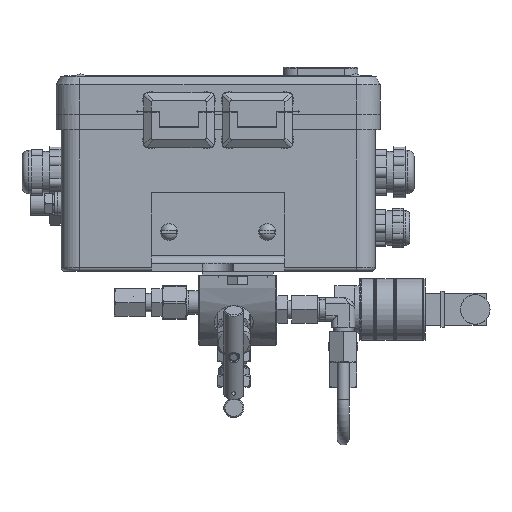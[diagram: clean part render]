
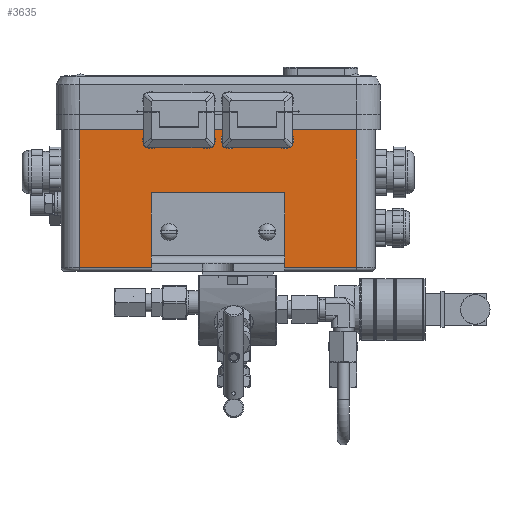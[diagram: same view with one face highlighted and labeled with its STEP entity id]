
A CAD part, front view. The second image highlights one B-rep face of the part: STEP entity #3635.
In plain terms, the highlighted planar face has unit normal (0, -1, 0).
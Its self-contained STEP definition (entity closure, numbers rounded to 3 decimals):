
#3635=ADVANCED_FACE('',(#20647,#20649,#20651,#20653,#20655,#20657,#20659),#20661,
.T.);
#20647=FACE_BOUND('',#20648,.T.);
#20648=EDGE_LOOP('',(#56076,#56077,#56078,#56079));
#20649=FACE_BOUND('',#20650,.T.);
#20650=EDGE_LOOP('',(#56080));
#20651=FACE_BOUND('',#20652,.T.);
#20652=EDGE_LOOP('',(#56081));
#20653=FACE_BOUND('',#20654,.T.);
#20654=EDGE_LOOP('',(#56082));
#20655=FACE_BOUND('',#20656,.T.);
#20656=EDGE_LOOP('',(#56083));
#20657=FACE_BOUND('',#20658,.T.);
#20658=EDGE_LOOP('',(#56084));
#20659=FACE_BOUND('',#20660,.T.);
#20660=EDGE_LOOP('',(#56085));
#20661=PLANE('',#20662);
#20662=AXIS2_PLACEMENT_3D('',#20663,#20664,#20665);
#20663=CARTESIAN_POINT('',(70.5,-80.,0.));
#20664=DIRECTION('',(0.,-1.,0.));
#20665=DIRECTION('',(0.,0.,1.));
#56076=ORIENTED_EDGE('',*,*,#80227,.T.);
#56077=ORIENTED_EDGE('',*,*,#80228,.F.);
#56078=ORIENTED_EDGE('',*,*,#80229,.F.);
#56079=ORIENTED_EDGE('',*,*,#80230,.F.);
#56080=ORIENTED_EDGE('',*,*,#80231,.T.);
#56081=ORIENTED_EDGE('',*,*,#80232,.T.);
#56082=ORIENTED_EDGE('',*,*,#80233,.T.);
#56083=ORIENTED_EDGE('',*,*,#80234,.T.);
#56084=ORIENTED_EDGE('',*,*,#80147,.T.);
#56085=ORIENTED_EDGE('',*,*,#80149,.T.);
#80147=EDGE_CURVE('',#96101,#96101,#96102,.T.);
#80149=EDGE_CURVE('',#96105,#96105,#96106,.T.);
#80227=EDGE_CURVE('',#96237,#96238,#96239,.T.);
#80228=EDGE_CURVE('',#96240,#96238,#96241,.T.);
#80229=EDGE_CURVE('',#96242,#96240,#96243,.T.);
#80230=EDGE_CURVE('',#96237,#96242,#96244,.T.);
#80231=EDGE_CURVE('',#96245,#96245,#96246,.T.);
#80232=EDGE_CURVE('',#96247,#96247,#96248,.T.);
#80233=EDGE_CURVE('',#96249,#96249,#96250,.T.);
#80234=EDGE_CURVE('',#96251,#96251,#96252,.T.);
#96101=VERTEX_POINT('',#115700);
#96102=CIRCLE('',#115701,2.4);
#96105=VERTEX_POINT('',#115710);
#96106=CIRCLE('',#115711,2.4);
#96237=VERTEX_POINT('',#116028);
#96238=VERTEX_POINT('',#116029);
#96239=LINE('',#116030,#116031);
#96240=VERTEX_POINT('',#116033);
#96241=LINE('',#116034,#116035);
#96242=VERTEX_POINT('',#116037);
#96243=LINE('',#116038,#116039);
#96244=LINE('',#116041,#116042);
#96245=VERTEX_POINT('',#116044);
#96246=CIRCLE('',#116045,4.5);
#96247=VERTEX_POINT('',#116049);
#96248=CIRCLE('',#116050,4.5);
#96249=VERTEX_POINT('',#116054);
#96250=CIRCLE('',#116055,4.5);
#96251=VERTEX_POINT('',#116059);
#96252=CIRCLE('',#116060,4.5);
#115700=CARTESIAN_POINT('',(-25.,-80.,17.6));
#115701=AXIS2_PLACEMENT_3D('',#115702,#115703,#115704);
#115702=CARTESIAN_POINT('',(-25.,-80.,20.));
#115703=DIRECTION('',(0.,1.,0.));
#115704=DIRECTION('',(0.,0.,-1.));
#115710=CARTESIAN_POINT('',(25.,-80.,17.6));
#115711=AXIS2_PLACEMENT_3D('',#115712,#115713,#115714);
#115712=CARTESIAN_POINT('',(25.,-80.,20.));
#115713=DIRECTION('',(0.,1.,0.));
#115714=DIRECTION('',(0.,0.,-1.));
#116028=CARTESIAN_POINT('',(70.5,-80.,72.));
#116029=CARTESIAN_POINT('',(-70.5,-80.,72.));
#116030=CARTESIAN_POINT('',(70.5,-80.,72.));
#116031=VECTOR('',#116032,1.);
#116032=DIRECTION('',(-1.,0.,0.));
#116033=CARTESIAN_POINT('',(-70.5,-80.,2.));
#116034=CARTESIAN_POINT('',(-70.5,-80.,2.));
#116035=VECTOR('',#116036,1.);
#116036=DIRECTION('',(0.,0.,1.));
#116037=CARTESIAN_POINT('',(70.5,-80.,2.));
#116038=CARTESIAN_POINT('',(70.5,-80.,2.));
#116039=VECTOR('',#116040,1.);
#116040=DIRECTION('',(-1.,0.,0.));
#116041=CARTESIAN_POINT('',(70.5,-80.,72.));
#116042=VECTOR('',#116043,1.);
#116043=DIRECTION('',(0.,0.,-1.));
#116044=CARTESIAN_POINT('',(6.,-80.,62.5));
#116045=AXIS2_PLACEMENT_3D('',#116046,#116047,#116048);
#116046=CARTESIAN_POINT('',(6.,-80.,67.));
#116047=DIRECTION('',(0.,1.,0.));
#116048=DIRECTION('',(0.,0.,1.));
#116049=CARTESIAN_POINT('',(-34.,-80.,62.5));
#116050=AXIS2_PLACEMENT_3D('',#116051,#116052,#116053);
#116051=CARTESIAN_POINT('',(-34.,-80.,67.));
#116052=DIRECTION('',(0.,1.,0.));
#116053=DIRECTION('',(0.,0.,1.));
#116054=CARTESIAN_POINT('',(-6.,-80.,62.5));
#116055=AXIS2_PLACEMENT_3D('',#116056,#116057,#116058);
#116056=CARTESIAN_POINT('',(-6.,-80.,67.));
#116057=DIRECTION('',(0.,1.,0.));
#116058=DIRECTION('',(0.,0.,1.));
#116059=CARTESIAN_POINT('',(34.,-80.,62.5));
#116060=AXIS2_PLACEMENT_3D('',#116061,#116062,#116063);
#116061=CARTESIAN_POINT('',(34.,-80.,67.));
#116062=DIRECTION('',(0.,1.,0.));
#116063=DIRECTION('',(0.,0.,1.));
